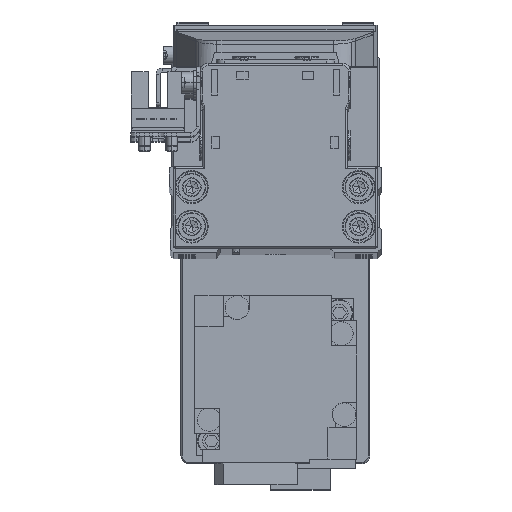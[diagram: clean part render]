
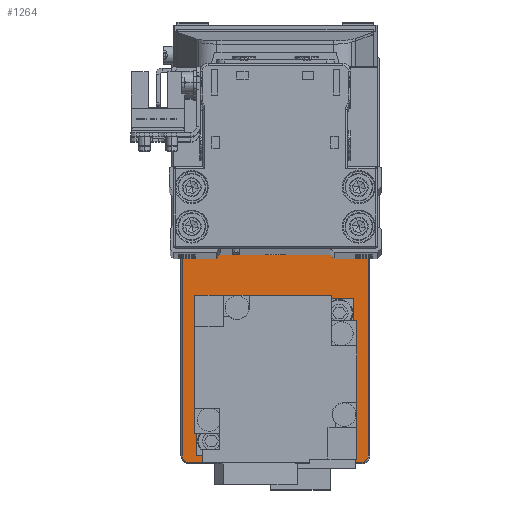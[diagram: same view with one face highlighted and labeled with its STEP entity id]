
A CAD part, top view. The second image highlights one B-rep face of the part: STEP entity #1264.
In plain terms, the highlighted planar face has unit normal (0, 0, 1).
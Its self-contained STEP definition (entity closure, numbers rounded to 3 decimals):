
#23 = CARTESIAN_POINT ( 'NONE',  ( -50., 23.7, 5. ) ) ;
#88 = EDGE_LOOP ( 'NONE', ( #4872, #23655, #36052, #2160, #27413, #35026, #8667, #30549 ) ) ;
#593 = EDGE_CURVE ( 'NONE', #20806, #35012, #28999, .T. ) ;
#856 = CARTESIAN_POINT ( 'NONE',  ( -51.7, -22., 5. ) ) ;
#919 = ORIENTED_EDGE ( 'NONE', *, *, #8412, .T. ) ;
#1011 = VERTEX_POINT ( 'NONE', #10123 ) ;
#1264 = ADVANCED_FACE ( 'NONE', ( #14605, #27092, #39646 ), #11534, .T. ) ;
#1787 = VECTOR ( 'NONE', #13413, 1000. ) ;
#2004 = CIRCLE ( 'NONE', #24948, 1.7 ) ;
#2030 = EDGE_CURVE ( 'NONE', #39994, #9697, #31642, .T. ) ;
#2078 = CARTESIAN_POINT ( 'NONE',  ( -50., -22., 5. ) ) ;
#2160 = ORIENTED_EDGE ( 'NONE', *, *, #35366, .T. ) ;
#2268 = VERTEX_POINT ( 'NONE', #23 ) ;
#3507 = EDGE_CURVE ( 'NONE', #25383, #6774, #10609, .T. ) ;
#4378 = DIRECTION ( 'NONE',  ( 1., 0., 0. ) ) ;
#4872 = ORIENTED_EDGE ( 'NONE', *, *, #21310, .T. ) ;
#5073 = AXIS2_PLACEMENT_3D ( 'NONE', #14786, #27282, #39844 ) ;
#5107 = CARTESIAN_POINT ( 'NONE',  ( -51.7, 22., 5. ) ) ;
#5166 = EDGE_CURVE ( 'NONE', #15624, #2268, #12806, .T. ) ;
#5374 = EDGE_CURVE ( 'NONE', #35012, #15834, #6784, .T. ) ;
#5571 = CARTESIAN_POINT ( 'NONE',  ( -51.7, -22., 5. ) ) ;
#5733 = EDGE_CURVE ( 'NONE', #2268, #20806, #11306, .T. ) ;
#6774 = VERTEX_POINT ( 'NONE', #12380 ) ;
#6784 = CIRCLE ( 'NONE', #12035, 1.7 ) ;
#6887 = CARTESIAN_POINT ( 'NONE',  ( 50., -23.7, 5. ) ) ;
#8361 = DIRECTION ( 'NONE',  ( 1., 0., 0. ) ) ;
#8412 = EDGE_CURVE ( 'NONE', #6774, #25383, #22759, .T. ) ;
#8462 = DIRECTION ( 'NONE',  ( 1., 0., 0. ) ) ;
#8667 = ORIENTED_EDGE ( 'NONE', *, *, #593, .T. ) ;
#9697 = VERTEX_POINT ( 'NONE', #20305 ) ;
#10123 = CARTESIAN_POINT ( 'NONE',  ( 51.7, 22., 5. ) ) ;
#10609 = CIRCLE ( 'NONE', #33544, 10.3 ) ;
#10708 = CARTESIAN_POINT ( 'NONE',  ( -50., 22., 5. ) ) ;
#10777 = DIRECTION ( 'NONE',  ( 1., 0., 0. ) ) ;
#11306 = CIRCLE ( 'NONE', #34237, 1.7 ) ;
#11534 = PLANE ( 'NONE',  #20760 ) ;
#11621 = CARTESIAN_POINT ( 'NONE',  ( 50., -22., 5. ) ) ;
#12035 = AXIS2_PLACEMENT_3D ( 'NONE', #2078, #14630, #27117 ) ;
#12213 = CARTESIAN_POINT ( 'NONE',  ( 51.7, 22., 5. ) ) ;
#12380 = CARTESIAN_POINT ( 'NONE',  ( -17.7, 0., 5. ) ) ;
#12806 = LINE ( 'NONE', #25290, #37582 ) ;
#13413 = DIRECTION ( 'NONE',  ( 0., -1., 0. ) ) ;
#13750 = CARTESIAN_POINT ( 'NONE',  ( 50., 22., 5. ) ) ;
#13756 = ORIENTED_EDGE ( 'NONE', *, *, #2030, .T. ) ;
#14100 = ORIENTED_EDGE ( 'NONE', *, *, #3507, .T. ) ;
#14322 = CIRCLE ( 'NONE', #37268, 1.7 ) ;
#14605 = FACE_BOUND ( 'NONE', #32190, .T. ) ;
#14630 = DIRECTION ( 'NONE',  ( 0., 0., 1. ) ) ;
#14769 = EDGE_CURVE ( 'NONE', #34253, #22017, #2004, .T. ) ;
#14786 = CARTESIAN_POINT ( 'NONE',  ( -28., 0., 5. ) ) ;
#15624 = VERTEX_POINT ( 'NONE', #31339 ) ;
#15834 = VERTEX_POINT ( 'NONE', #20235 ) ;
#16486 = AXIS2_PLACEMENT_3D ( 'NONE', #19973, #32487, #4378 ) ;
#19390 = DIRECTION ( 'NONE',  ( 1., 0., 0. ) ) ;
#19973 = CARTESIAN_POINT ( 'NONE',  ( 30., 0., 5. ) ) ;
#20235 = CARTESIAN_POINT ( 'NONE',  ( -50., -23.7, 5. ) ) ;
#20305 = CARTESIAN_POINT ( 'NONE',  ( 17.2, 0., 5. ) ) ;
#20760 = AXIS2_PLACEMENT_3D ( 'NONE', #24023, #36572, #8462 ) ;
#20806 = VERTEX_POINT ( 'NONE', #5107 ) ;
#21310 = EDGE_CURVE ( 'NONE', #15834, #34253, #35009, .T. ) ;
#22017 = VERTEX_POINT ( 'NONE', #27664 ) ;
#22759 = CIRCLE ( 'NONE', #5073, 10.3 ) ;
#22942 = ORIENTED_EDGE ( 'NONE', *, *, #24354, .T. ) ;
#23197 = DIRECTION ( 'NONE',  ( 0., 0., 1. ) ) ;
#23655 = ORIENTED_EDGE ( 'NONE', *, *, #14769, .T. ) ;
#23925 = CARTESIAN_POINT ( 'NONE',  ( -28., 0., 5. ) ) ;
#24023 = CARTESIAN_POINT ( 'NONE',  ( 0., 0., 5. ) ) ;
#24106 = DIRECTION ( 'NONE',  ( 0., 0., 1. ) ) ;
#24283 = EDGE_LOOP ( 'NONE', ( #919, #14100 ) ) ;
#24354 = EDGE_CURVE ( 'NONE', #9697, #39994, #34194, .T. ) ;
#24702 = DIRECTION ( 'NONE',  ( 0., 1., 0. ) ) ;
#24948 = AXIS2_PLACEMENT_3D ( 'NONE', #11621, #24106, #36649 ) ;
#25290 = CARTESIAN_POINT ( 'NONE',  ( -50., 23.7, 5. ) ) ;
#25383 = VERTEX_POINT ( 'NONE', #40427 ) ;
#26235 = DIRECTION ( 'NONE',  ( 0., 0., 1. ) ) ;
#26334 = CARTESIAN_POINT ( 'NONE',  ( 30., 0., 5. ) ) ;
#27092 = FACE_BOUND ( 'NONE', #24283, .T. ) ;
#27117 = DIRECTION ( 'NONE',  ( 1., 0., 0. ) ) ;
#27282 = DIRECTION ( 'NONE',  ( 0., 0., -1. ) ) ;
#27413 = ORIENTED_EDGE ( 'NONE', *, *, #5166, .T. ) ;
#27664 = CARTESIAN_POINT ( 'NONE',  ( 51.7, -22., 5. ) ) ;
#28507 = CARTESIAN_POINT ( 'NONE',  ( 42.8, 0., 5. ) ) ;
#28849 = EDGE_CURVE ( 'NONE', #22017, #1011, #40330, .T. ) ;
#28999 = LINE ( 'NONE', #856, #1787 ) ;
#30405 = AXIS2_PLACEMENT_3D ( 'NONE', #26334, #38891, #10777 ) ;
#30549 = ORIENTED_EDGE ( 'NONE', *, *, #5374, .T. ) ;
#31138 = CARTESIAN_POINT ( 'NONE',  ( 50., -23.7, 5. ) ) ;
#31339 = CARTESIAN_POINT ( 'NONE',  ( 50., 23.7, 5. ) ) ;
#31642 = CIRCLE ( 'NONE', #30405, 12.8 ) ;
#32190 = EDGE_LOOP ( 'NONE', ( #13756, #22942 ) ) ;
#32487 = DIRECTION ( 'NONE',  ( 0., 0., -1. ) ) ;
#33544 = AXIS2_PLACEMENT_3D ( 'NONE', #23925, #36466, #8361 ) ;
#34194 = CIRCLE ( 'NONE', #16486, 12.8 ) ;
#34237 = AXIS2_PLACEMENT_3D ( 'NONE', #10708, #23197, #35734 ) ;
#34253 = VERTEX_POINT ( 'NONE', #31138 ) ;
#35009 = LINE ( 'NONE', #6887, #40565 ) ;
#35012 = VERTEX_POINT ( 'NONE', #5571 ) ;
#35026 = ORIENTED_EDGE ( 'NONE', *, *, #5733, .T. ) ;
#35366 = EDGE_CURVE ( 'NONE', #1011, #15624, #14322, .T. ) ;
#35734 = DIRECTION ( 'NONE',  ( 1., 0., 0. ) ) ;
#36052 = ORIENTED_EDGE ( 'NONE', *, *, #28849, .T. ) ;
#36466 = DIRECTION ( 'NONE',  ( 0., 0., -1. ) ) ;
#36572 = DIRECTION ( 'NONE',  ( 0., 0., 1. ) ) ;
#36649 = DIRECTION ( 'NONE',  ( 1., 0., 0. ) ) ;
#37268 = AXIS2_PLACEMENT_3D ( 'NONE', #13750, #26235, #38794 ) ;
#37582 = VECTOR ( 'NONE', #37844, 1000. ) ;
#37844 = DIRECTION ( 'NONE',  ( -1., 0., 0. ) ) ;
#37866 = VECTOR ( 'NONE', #24702, 1000. ) ;
#38794 = DIRECTION ( 'NONE',  ( 1., 0., 0. ) ) ;
#38891 = DIRECTION ( 'NONE',  ( 0., 0., -1. ) ) ;
#39646 = FACE_OUTER_BOUND ( 'NONE', #88, .T. ) ;
#39844 = DIRECTION ( 'NONE',  ( 1., 0., 0. ) ) ;
#39994 = VERTEX_POINT ( 'NONE', #28507 ) ;
#40330 = LINE ( 'NONE', #12213, #37866 ) ;
#40427 = CARTESIAN_POINT ( 'NONE',  ( -38.3, 0., 5. ) ) ;
#40565 = VECTOR ( 'NONE', #19390, 1000. ) ;
